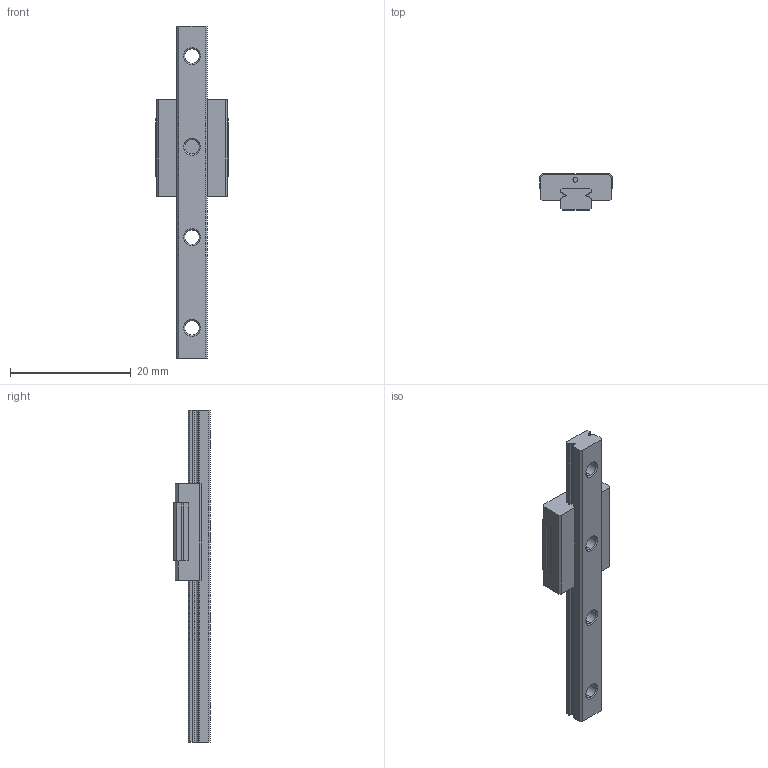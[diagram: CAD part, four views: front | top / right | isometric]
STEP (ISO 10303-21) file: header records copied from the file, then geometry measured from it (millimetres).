
FILE_DESCRIPTION((''),'2;1');
FILE_NAME('MGN5C_ASM','2011-07-27T',('brianyu'),(''),'PRO/ENGINEER BY PARAMETRIC TECHNOLOGY CORPORATION, 2004360','PRO/ENGINEER BY PARAMETRIC TECHNOLOGY CORPORATION, 2004360','');
FILE_SCHEMA(('CONFIG_CONTROL_DESIGN'));
Length unit declared in the file: millimetre
Products named in the file (3): BLOCK_; RAIL_; MGN5C_ASM
Assembly tree (2 placements, depth 2):
  MGN5C_ASM
    BLOCK_
    RAIL_
Bounding box: 12 x 6 x 55 mm (x, y, z)
Volume: 1513.3 mm3; surface area: 1873 mm2
Topology: 2 solids, 2 shells, 134 faces, 352 edges, 230 vertices
Faces by surface type: plane 61, cylinder 53, cone 20
Entity records: 4272 total; most frequent: DIRECTION 762, CARTESIAN_POINT 730, ORIENTED_EDGE 704, EDGE_CURVE 352, AXIS2_PLACEMENT_3D 273, VERTEX_POINT 230, VECTOR 216, LINE 216
